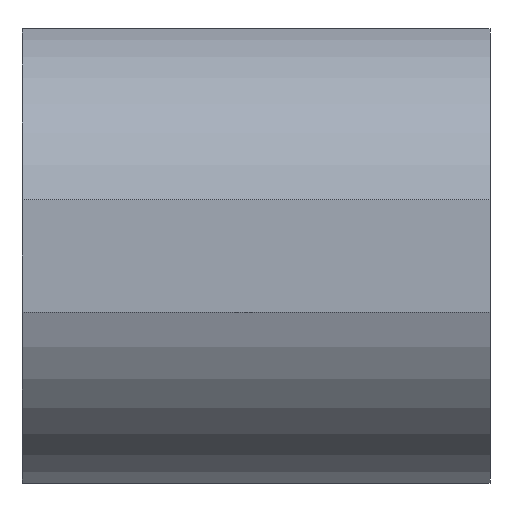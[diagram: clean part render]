
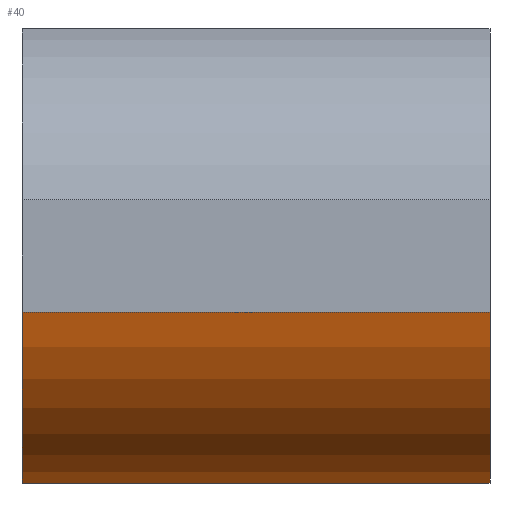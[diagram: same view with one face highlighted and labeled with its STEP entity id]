
A CAD part, front view. The second image highlights one B-rep face of the part: STEP entity #40.
In plain terms, the highlighted cylindrical face has radius 17 mm (diameter 34 mm), a partial arc.
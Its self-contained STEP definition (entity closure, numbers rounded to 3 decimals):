
#23 = EDGE_CURVE ( 'NONE', #1255, #1368, #1166, .T. ) ;
#40 = ADVANCED_FACE ( 'NONE', ( #288 ), #692, .T. ) ;
#51 = CARTESIAN_POINT ( 'NONE',  ( -17., -34., 0. ) ) ;
#94 = CARTESIAN_POINT ( 'NONE',  ( -17., -50.5, -4.093 ) ) ;
#151 = DIRECTION ( 'NONE',  ( 1., 0., 0. ) ) ;
#162 = CARTESIAN_POINT ( 'NONE',  ( 17., -34., 0. ) ) ;
#181 = CARTESIAN_POINT ( 'NONE',  ( 17., -38.093, -16.5 ) ) ;
#187 = CIRCLE ( 'NONE', #1132, 17. ) ;
#199 = LINE ( 'NONE', #317, #670 ) ;
#238 = EDGE_LOOP ( 'NONE', ( #1000, #863, #1041, #889 ) ) ;
#274 = CARTESIAN_POINT ( 'NONE',  ( 17., -50.5, -4.093 ) ) ;
#288 = FACE_OUTER_BOUND ( 'NONE', #238, .T. ) ;
#317 = CARTESIAN_POINT ( 'NONE',  ( 17., -38.093, -16.5 ) ) ;
#389 = VERTEX_POINT ( 'NONE', #1054 ) ;
#404 = DIRECTION ( 'NONE',  ( 1., 0., 0. ) ) ;
#473 = DIRECTION ( 'NONE',  ( -1., 0., 0. ) ) ;
#593 = DIRECTION ( 'NONE',  ( 0., 0., -1. ) ) ;
#670 = VECTOR ( 'NONE', #404, 1000. ) ;
#692 = CYLINDRICAL_SURFACE ( 'NONE', #752, 17. ) ;
#752 = AXIS2_PLACEMENT_3D ( 'NONE', #162, #473, #1195 ) ;
#775 = DIRECTION ( 'NONE',  ( -1., 0., 0. ) ) ;
#797 = DIRECTION ( 'NONE',  ( 1., 0., 0. ) ) ;
#809 = LINE ( 'NONE', #1372, #1245 ) ;
#863 = ORIENTED_EDGE ( 'NONE', *, *, #1027, .T. ) ;
#889 = ORIENTED_EDGE ( 'NONE', *, *, #930, .T. ) ;
#893 = CARTESIAN_POINT ( 'NONE',  ( 17., -34., 0. ) ) ;
#930 = EDGE_CURVE ( 'NONE', #389, #1368, #199, .T. ) ;
#945 = VERTEX_POINT ( 'NONE', #94 ) ;
#985 = AXIS2_PLACEMENT_3D ( 'NONE', #893, #151, #1223 ) ;
#1000 = ORIENTED_EDGE ( 'NONE', *, *, #23, .F. ) ;
#1027 = EDGE_CURVE ( 'NONE', #1255, #945, #809, .T. ) ;
#1041 = ORIENTED_EDGE ( 'NONE', *, *, #1215, .T. ) ;
#1054 = CARTESIAN_POINT ( 'NONE',  ( -17., -38.093, -16.5 ) ) ;
#1132 = AXIS2_PLACEMENT_3D ( 'NONE', #51, #797, #593 ) ;
#1166 = CIRCLE ( 'NONE', #985, 17. ) ;
#1195 = DIRECTION ( 'NONE',  ( 0., 0., 1. ) ) ;
#1215 = EDGE_CURVE ( 'NONE', #945, #389, #187, .T. ) ;
#1223 = DIRECTION ( 'NONE',  ( 0., 0., -1. ) ) ;
#1245 = VECTOR ( 'NONE', #775, 1000. ) ;
#1255 = VERTEX_POINT ( 'NONE', #274 ) ;
#1368 = VERTEX_POINT ( 'NONE', #181 ) ;
#1372 = CARTESIAN_POINT ( 'NONE',  ( 17., -50.5, -4.093 ) ) ;
